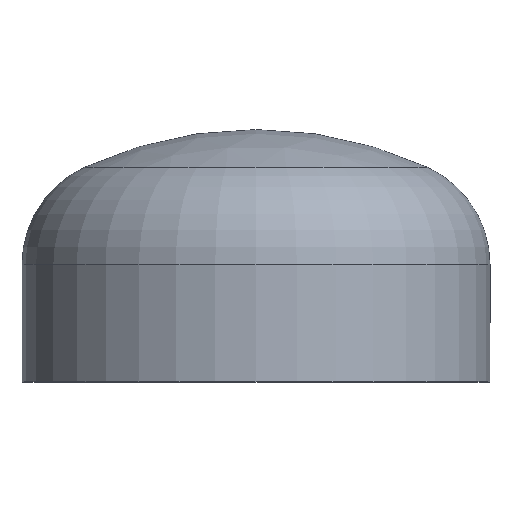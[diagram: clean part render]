
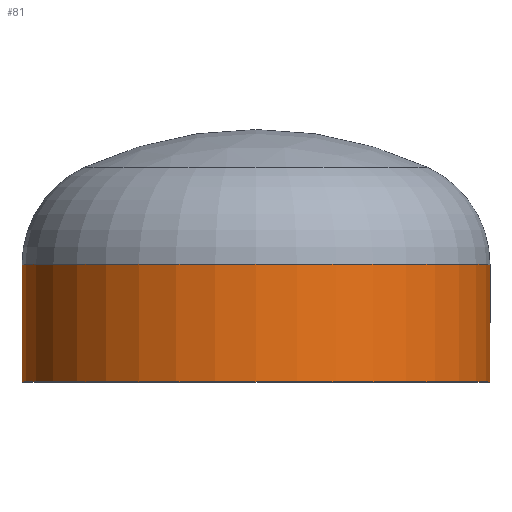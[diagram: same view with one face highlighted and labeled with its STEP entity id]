
A CAD part, top view. The second image highlights one B-rep face of the part: STEP entity #81.
In plain terms, the highlighted cylindrical face has radius 109.55 mm (diameter 219.1 mm), a partial arc.
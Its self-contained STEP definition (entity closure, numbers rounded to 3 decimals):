
#10 = ORIENTED_EDGE ( 'NONE', *, *, #109, .T. ) ;
#26 = ORIENTED_EDGE ( 'NONE', *, *, #358, .F. ) ;
#28 = CARTESIAN_POINT ( 'NONE',  ( -109.55, 0., 0. ) ) ;
#29 = DIRECTION ( 'NONE',  ( 1., 0., 0. ) ) ;
#35 = DIRECTION ( 'NONE',  ( 0., -1., 0. ) ) ;
#36 = VERTEX_POINT ( 'NONE', #388 ) ;
#37 = CARTESIAN_POINT ( 'NONE',  ( 0., 0., 0. ) ) ;
#62 = AXIS2_PLACEMENT_3D ( 'NONE', #37, #35, #29 ) ;
#68 = AXIS2_PLACEMENT_3D ( 'NONE', #217, #365, #327 ) ;
#70 = DIRECTION ( 'NONE',  ( 0., -1., 0. ) ) ;
#71 = CARTESIAN_POINT ( 'NONE',  ( 109.55, 0., 0. ) ) ;
#78 = AXIS2_PLACEMENT_3D ( 'NONE', #387, #406, #392 ) ;
#81 = ADVANCED_FACE ( 'NONE', ( #348 ), #282, .T. ) ;
#91 = LINE ( 'NONE', #71, #396 ) ;
#109 = EDGE_CURVE ( 'NONE', #175, #126, #199, .T. ) ;
#112 = ORIENTED_EDGE ( 'NONE', *, *, #370, .F. ) ;
#126 = VERTEX_POINT ( 'NONE', #270 ) ;
#175 = VERTEX_POINT ( 'NONE', #333 ) ;
#199 = CIRCLE ( 'NONE', #68, 109.55 ) ;
#200 = EDGE_LOOP ( 'NONE', ( #10, #304, #26, #112 ) ) ;
#204 = DIRECTION ( 'NONE',  ( 0., -1., 0. ) ) ;
#217 = CARTESIAN_POINT ( 'NONE',  ( 0., 55., 0. ) ) ;
#222 = LINE ( 'NONE', #28, #341 ) ;
#224 = VERTEX_POINT ( 'NONE', #258 ) ;
#258 = CARTESIAN_POINT ( 'NONE',  ( -109.55, 0., 0. ) ) ;
#270 = CARTESIAN_POINT ( 'NONE',  ( -109.55, 55., 0. ) ) ;
#282 = CYLINDRICAL_SURFACE ( 'NONE', #78, 109.55 ) ;
#303 = CIRCLE ( 'NONE', #62, 109.55 ) ;
#304 = ORIENTED_EDGE ( 'NONE', *, *, #361, .T. ) ;
#327 = DIRECTION ( 'NONE',  ( 1., 0., 0. ) ) ;
#333 = CARTESIAN_POINT ( 'NONE',  ( 109.55, 55., 0. ) ) ;
#341 = VECTOR ( 'NONE', #204, 1000. ) ;
#348 = FACE_OUTER_BOUND ( 'NONE', #200, .T. ) ;
#358 = EDGE_CURVE ( 'NONE', #36, #224, #303, .T. ) ;
#361 = EDGE_CURVE ( 'NONE', #126, #224, #222, .T. ) ;
#365 = DIRECTION ( 'NONE',  ( 0., -1., 0. ) ) ;
#370 = EDGE_CURVE ( 'NONE', #175, #36, #91, .T. ) ;
#387 = CARTESIAN_POINT ( 'NONE',  ( 0., 0., 0. ) ) ;
#388 = CARTESIAN_POINT ( 'NONE',  ( 109.55, 0., 0. ) ) ;
#392 = DIRECTION ( 'NONE',  ( 1., 0., 0. ) ) ;
#396 = VECTOR ( 'NONE', #70, 1000. ) ;
#406 = DIRECTION ( 'NONE',  ( 0., -1., 0. ) ) ;
